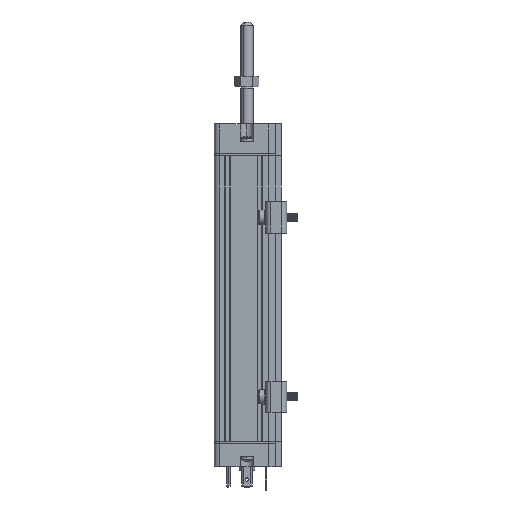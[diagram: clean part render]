
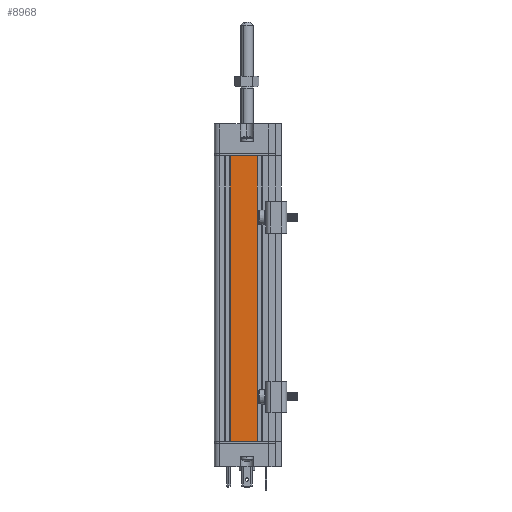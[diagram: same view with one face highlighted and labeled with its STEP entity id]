
A CAD part, left-side view. The second image highlights one B-rep face of the part: STEP entity #8968.
In plain terms, the highlighted planar face has unit normal (-1, 0, 0).
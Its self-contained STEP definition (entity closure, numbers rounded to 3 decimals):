
#27 = EDGE_CURVE ( 'NONE', #12729, #892, #18839, .T. ) ;
#877 = DIRECTION ( 'NONE',  ( 0., 0., 1. ) ) ;
#892 = VERTEX_POINT ( 'NONE', #3701 ) ;
#937 = LINE ( 'NONE', #11468, #27531 ) ;
#2459 = CARTESIAN_POINT ( 'NONE',  ( 0., 24.4, -136.5 ) ) ;
#3701 = CARTESIAN_POINT ( 'NONE',  ( 0., 11.6, -136.5 ) ) ;
#4472 = PLANE ( 'NONE',  #16133 ) ;
#6428 = CARTESIAN_POINT ( 'NONE',  ( 0., 24.4, 0. ) ) ;
#8195 = VERTEX_POINT ( 'NONE', #26239 ) ;
#8968 = ADVANCED_FACE ( 'NONE', ( #13457 ), #4472, .T. ) ;
#9923 = VECTOR ( 'NONE', #26638, 1000. ) ;
#10393 = CARTESIAN_POINT ( 'NONE',  ( 0., 11.6, -136.5 ) ) ;
#11296 = CARTESIAN_POINT ( 'NONE',  ( 0., 24.4, -136.5 ) ) ;
#11468 = CARTESIAN_POINT ( 'NONE',  ( 0., 11.6, -136.5 ) ) ;
#11834 = LINE ( 'NONE', #2459, #25110 ) ;
#12729 = VERTEX_POINT ( 'NONE', #11296 ) ;
#13457 = FACE_OUTER_BOUND ( 'NONE', #26179, .T. ) ;
#16104 = CARTESIAN_POINT ( 'NONE',  ( 0., 11.6, 0. ) ) ;
#16133 = AXIS2_PLACEMENT_3D ( 'NONE', #30958, #33702, #17861 ) ;
#16994 = LINE ( 'NONE', #16104, #9923 ) ;
#17861 = DIRECTION ( 'NONE',  ( 0., 0., 1. ) ) ;
#18426 = EDGE_CURVE ( 'NONE', #20085, #8195, #16994, .T. ) ;
#18839 = LINE ( 'NONE', #10393, #25910 ) ;
#20085 = VERTEX_POINT ( 'NONE', #6428 ) ;
#21965 = EDGE_CURVE ( 'NONE', #12729, #20085, #11834, .T. ) ;
#24997 = ORIENTED_EDGE ( 'NONE', *, *, #21965, .F. ) ;
#25110 = VECTOR ( 'NONE', #26388, 1000. ) ;
#25899 = EDGE_CURVE ( 'NONE', #892, #8195, #937, .T. ) ;
#25910 = VECTOR ( 'NONE', #34387, 1000. ) ;
#26179 = EDGE_LOOP ( 'NONE', ( #30198, #24997, #27356, #28754 ) ) ;
#26239 = CARTESIAN_POINT ( 'NONE',  ( 0., 11.6, 0. ) ) ;
#26388 = DIRECTION ( 'NONE',  ( 0., 0., 1. ) ) ;
#26638 = DIRECTION ( 'NONE',  ( 0., -1., 0. ) ) ;
#27356 = ORIENTED_EDGE ( 'NONE', *, *, #27, .T. ) ;
#27531 = VECTOR ( 'NONE', #877, 1000. ) ;
#28754 = ORIENTED_EDGE ( 'NONE', *, *, #25899, .T. ) ;
#30198 = ORIENTED_EDGE ( 'NONE', *, *, #18426, .F. ) ;
#30958 = CARTESIAN_POINT ( 'NONE',  ( 0., 11.6, -136.5 ) ) ;
#33702 = DIRECTION ( 'NONE',  ( -1., 0., 0. ) ) ;
#34387 = DIRECTION ( 'NONE',  ( 0., -1., 0. ) ) ;
